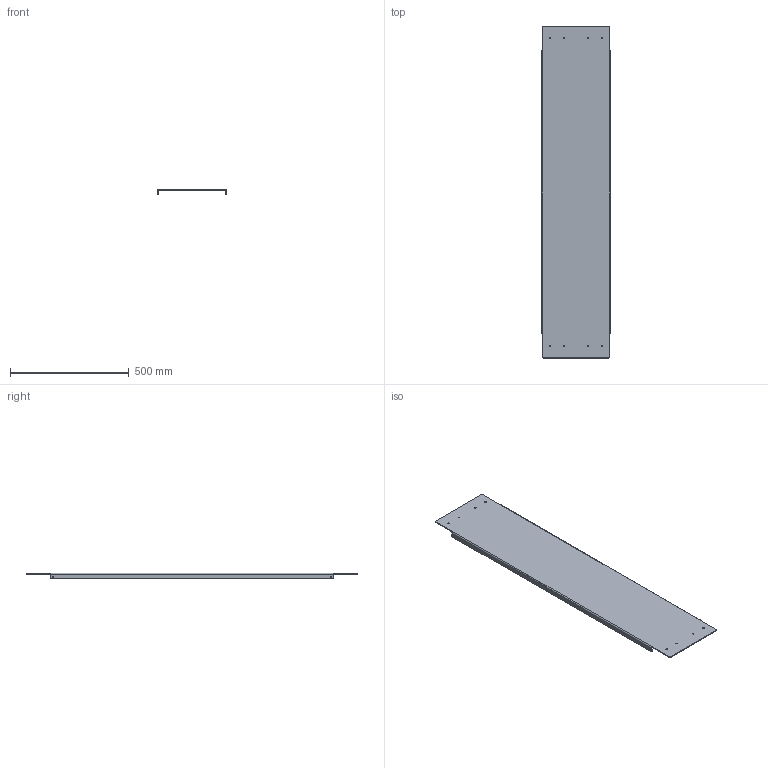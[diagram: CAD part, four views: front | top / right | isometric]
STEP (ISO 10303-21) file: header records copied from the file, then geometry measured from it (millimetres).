
FILE_DESCRIPTION(('HOOPS Exchange Step'),'2;1');
FILE_NAME('/private/var/mobile/Containers/Data/Application/E4481369-A8C6-45C6-A958-B1853E49479D/tmp/export/temp_export','2021-04-12T21:11:29+00:00',('mobile'),('Shapr3D Limited'),'HOOPS Exchange 2020.2','Shapr3D','Authorized');
FILE_SCHEMA( ('AP203_CONFIGURATION_CONTROLLED_3D_DESIGN_OF_MECHANICAL_PARTS_AND_ASSEMBLIES_MIM_LF') );
Length unit declared in the file: millimetre
Products named in the file (2): 0; /private/var/mobile/Containers/Data/Application/E4481369-A8C6-45C6-A958-B1853E49479D/tmp/D07B6CC5-85B3-4782-82B7-F9BCCBB6BE4E.tmp
Assembly tree (1 placements, depth 2):
  /private/var/mobile/Containers/Data/Application/E4481369-A8C6-45C6-A958-B1853E49479D/tmp/D07B6CC5-85B3-4782-82B7-F9BCCBB6BE4E.tmp
    0
Bounding box: 290 x 1400 x 24 mm (x, y, z)
Volume: 1793095.1 mm3; surface area: 911137.4 mm2
Topology: 1 solids, 1 shells, 42 faces, 128 edges, 88 vertices
Faces by surface type: cylinder 24, plane 18
Full cylindrical faces by diameter (mm): 5.2 x12
Entity records: 1575 total; most frequent: DIRECTION 282, CARTESIAN_POINT 261, ORIENTED_EDGE 256, EDGE_CURVE 128, AXIS2_PLACEMENT_3D 109, VERTEX_POINT 88, EDGE_LOOP 66, FACE_BOUND 66
